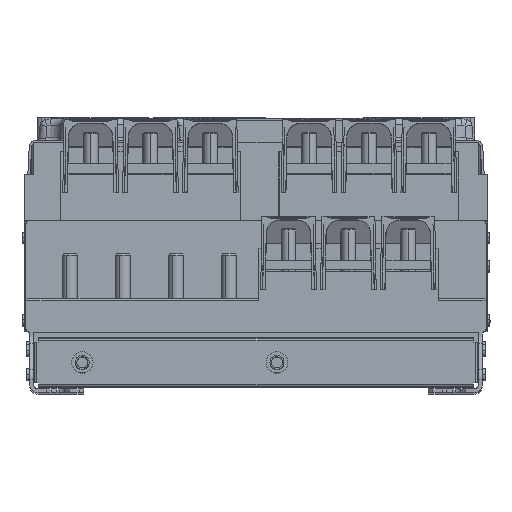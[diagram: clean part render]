
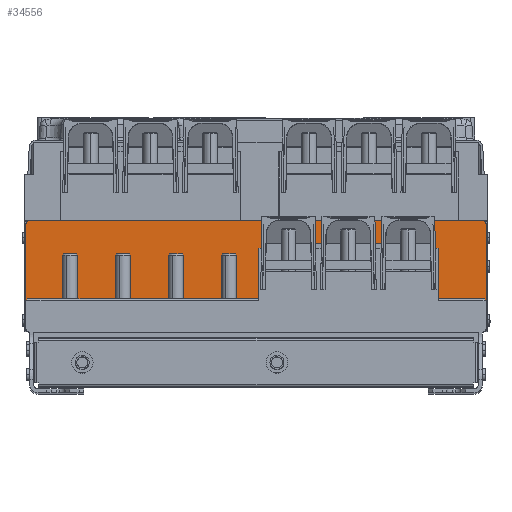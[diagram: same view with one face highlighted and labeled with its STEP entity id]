
A CAD part, top view. The second image highlights one B-rep face of the part: STEP entity #34556.
In plain terms, the highlighted planar face has unit normal (0, 0, 1).
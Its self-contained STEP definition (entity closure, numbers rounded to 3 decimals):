
#83 = LINE ( 'NONE', #30534, #63322 ) ;
#1093 = VERTEX_POINT ( 'NONE', #21017 ) ;
#1490 = CARTESIAN_POINT ( 'NONE',  ( 192.965, 63.129, 179. ) ) ;
#3931 = EDGE_CURVE ( 'NONE', #29670, #75107, #96122, .T. ) ;
#4008 = ORIENTED_EDGE ( 'NONE', *, *, #10854, .T. ) ;
#4274 = CARTESIAN_POINT ( 'NONE',  ( -243., 119., 179. ) ) ;
#4733 = CARTESIAN_POINT ( 'NONE',  ( 2.806, 89., 179. ) ) ;
#5142 = VECTOR ( 'NONE', #41113, 1000. ) ;
#6572 = CARTESIAN_POINT ( 'NONE',  ( -247., 31., 179. ) ) ;
#7763 = CARTESIAN_POINT ( 'NONE',  ( 195.511, 89., 179. ) ) ;
#8272 = EDGE_CURVE ( 'NONE', #79805, #98623, #78684, .T. ) ;
#10556 = VERTEX_POINT ( 'NONE', #4733 ) ;
#10854 = EDGE_CURVE ( 'NONE', #92250, #1093, #93618, .T. ) ;
#11756 = EDGE_CURVE ( 'NONE', #59836, #71662, #22697, .T. ) ;
#12292 = LINE ( 'NONE', #1490, #63623 ) ;
#12492 = CARTESIAN_POINT ( 'NONE',  ( 195.511, 35., 179. ) ) ;
#13195 = CIRCLE ( 'NONE', #73809, 4. ) ;
#13655 = EDGE_CURVE ( 'NONE', #43096, #35317, #12292, .T. ) ;
#13894 = DIRECTION ( 'NONE',  ( 0., 0., -1. ) ) ;
#13903 = ORIENTED_EDGE ( 'NONE', *, *, #46633, .F. ) ;
#14779 = ORIENTED_EDGE ( 'NONE', *, *, #55475, .F. ) ;
#15252 = CARTESIAN_POINT ( 'NONE',  ( 190.479, 89., 179. ) ) ;
#15504 = LINE ( 'NONE', #68443, #43623 ) ;
#15614 = AXIS2_PLACEMENT_3D ( 'NONE', #26594, #42532, #95581 ) ;
#17023 = DIRECTION ( 'NONE',  ( 0., 1., 0. ) ) ;
#17264 = CARTESIAN_POINT ( 'NONE',  ( 2.806, 35., 179. ) ) ;
#18219 = CARTESIAN_POINT ( 'NONE',  ( 195.511, 89., 179. ) ) ;
#20665 = ORIENTED_EDGE ( 'NONE', *, *, #23005, .T. ) ;
#20964 = CARTESIAN_POINT ( 'NONE',  ( 2.806, 89., 179. ) ) ;
#21017 = CARTESIAN_POINT ( 'NONE',  ( -245., 35., 179. ) ) ;
#21191 = EDGE_CURVE ( 'NONE', #1093, #33529, #39878, .T. ) ;
#22162 = ORIENTED_EDGE ( 'NONE', *, *, #65751, .T. ) ;
#22697 = LINE ( 'NONE', #38623, #33002 ) ;
#23005 = EDGE_CURVE ( 'NONE', #35317, #79805, #98217, .T. ) ;
#25136 = CARTESIAN_POINT ( 'NONE',  ( -245., 35., 179. ) ) ;
#25414 = CARTESIAN_POINT ( 'NONE',  ( -247., 35., 179. ) ) ;
#25618 = DIRECTION ( 'NONE',  ( 0.707, 0.707, 0. ) ) ;
#26095 = EDGE_CURVE ( 'NONE', #33529, #10556, #80563, .T. ) ;
#26100 = DIRECTION ( 'NONE',  ( 0., 1., 0. ) ) ;
#26260 = ORIENTED_EDGE ( 'NONE', *, *, #80654, .T. ) ;
#26594 = CARTESIAN_POINT ( 'NONE',  ( 243., 115., 179. ) ) ;
#27128 = CARTESIAN_POINT ( 'NONE',  ( 245., 35., 179. ) ) ;
#29670 = VERTEX_POINT ( 'NONE', #58834 ) ;
#30534 = CARTESIAN_POINT ( 'NONE',  ( -247., 1., 179. ) ) ;
#32982 = CARTESIAN_POINT ( 'NONE',  ( 247., 115., 179. ) ) ;
#33002 = VECTOR ( 'NONE', #46602, 1000. ) ;
#33150 = CARTESIAN_POINT ( 'NONE',  ( -247., 33., 179. ) ) ;
#33529 = VERTEX_POINT ( 'NONE', #17264 ) ;
#34556 = ADVANCED_FACE ( 'NONE', ( #66988 ), #66490, .T. ) ;
#34718 = DIRECTION ( 'NONE',  ( 1., 0., 0. ) ) ;
#35317 = VERTEX_POINT ( 'NONE', #93028 ) ;
#36028 = CARTESIAN_POINT ( 'NONE',  ( 2.806, 35., 179. ) ) ;
#36184 = ORIENTED_EDGE ( 'NONE', *, *, #90781, .F. ) ;
#36645 = VECTOR ( 'NONE', #38175, 1000. ) ;
#36990 = DIRECTION ( 'NONE',  ( 0., 0., 1. ) ) ;
#37090 = CARTESIAN_POINT ( 'NONE',  ( 247., 115., 179. ) ) ;
#37454 = LINE ( 'NONE', #90493, #52593 ) ;
#37976 = VERTEX_POINT ( 'NONE', #93025 ) ;
#38175 = DIRECTION ( 'NONE',  ( 1., 0., 0. ) ) ;
#38623 = CARTESIAN_POINT ( 'NONE',  ( 5.351, 63.129, 179. ) ) ;
#39878 = LINE ( 'NONE', #25414, #61442 ) ;
#41113 = DIRECTION ( 'NONE',  ( 0.707, -0.707, 0. ) ) ;
#41140 = DIRECTION ( 'NONE',  ( 0., -1., 0. ) ) ;
#42532 = DIRECTION ( 'NONE',  ( 0., 0., -1. ) ) ;
#43096 = VERTEX_POINT ( 'NONE', #93631 ) ;
#43623 = VECTOR ( 'NONE', #76451, 1000. ) ;
#43731 = CARTESIAN_POINT ( 'NONE',  ( 5.894, 94.2, 179. ) ) ;
#44274 = ORIENTED_EDGE ( 'NONE', *, *, #56321, .F. ) ;
#44320 = DIRECTION ( 'NONE',  ( 1., 0., 0. ) ) ;
#45326 = ORIENTED_EDGE ( 'NONE', *, *, #26095, .T. ) ;
#45932 = CARTESIAN_POINT ( 'NONE',  ( 243., 119., 179. ) ) ;
#46602 = DIRECTION ( 'NONE',  ( -0.017, -1., 0. ) ) ;
#46633 = EDGE_CURVE ( 'NONE', #65288, #75107, #71896, .T. ) ;
#47442 = CIRCLE ( 'NONE', #15614, 4. ) ;
#50447 = EDGE_CURVE ( 'NONE', #72542, #64566, #63699, .T. ) ;
#51816 = CARTESIAN_POINT ( 'NONE',  ( -243., 115., 179. ) ) ;
#52593 = VECTOR ( 'NONE', #61425, 1000. ) ;
#54642 = VECTOR ( 'NONE', #34718, 1000. ) ;
#55475 = EDGE_CURVE ( 'NONE', #92250, #37976, #83, .T. ) ;
#56321 = EDGE_CURVE ( 'NONE', #64566, #65288, #47442, .T. ) ;
#57105 = VECTOR ( 'NONE', #95437, 1000. ) ;
#58834 = CARTESIAN_POINT ( 'NONE',  ( 245., 35., 179. ) ) ;
#58979 = ORIENTED_EDGE ( 'NONE', *, *, #21191, .T. ) ;
#59836 = VERTEX_POINT ( 'NONE', #43731 ) ;
#61425 = DIRECTION ( 'NONE',  ( 1., 0., 0. ) ) ;
#61442 = VECTOR ( 'NONE', #78385, 1000. ) ;
#61794 = AXIS2_PLACEMENT_3D ( 'NONE', #6572, #36990, #97011 ) ;
#62502 = EDGE_LOOP ( 'NONE', ( #88562, #22162, #63315, #20665, #62867, #26260, #93595, #13903, #44274, #66122, #36184, #14779, #4008, #58979, #45326, #75314 ) ) ;
#62867 = ORIENTED_EDGE ( 'NONE', *, *, #8272, .T. ) ;
#63315 = ORIENTED_EDGE ( 'NONE', *, *, #13655, .T. ) ;
#63322 = VECTOR ( 'NONE', #17023, 1000. ) ;
#63623 = VECTOR ( 'NONE', #84934, 1000. ) ;
#63699 = LINE ( 'NONE', #4274, #54642 ) ;
#64566 = VERTEX_POINT ( 'NONE', #45932 ) ;
#65288 = VERTEX_POINT ( 'NONE', #37090 ) ;
#65751 = EDGE_CURVE ( 'NONE', #59836, #43096, #15504, .T. ) ;
#66122 = ORIENTED_EDGE ( 'NONE', *, *, #50447, .F. ) ;
#66490 = PLANE ( 'NONE',  #61794 ) ;
#66988 = FACE_OUTER_BOUND ( 'NONE', #62502, .T. ) ;
#68443 = CARTESIAN_POINT ( 'NONE',  ( -44.533, 94.2, 179. ) ) ;
#71662 = VERTEX_POINT ( 'NONE', #81103 ) ;
#71896 = LINE ( 'NONE', #32982, #57105 ) ;
#72542 = VERTEX_POINT ( 'NONE', #92695 ) ;
#72560 = VECTOR ( 'NONE', #41140, 1000. ) ;
#73809 = AXIS2_PLACEMENT_3D ( 'NONE', #51816, #13894, #44320 ) ;
#75107 = VERTEX_POINT ( 'NONE', #80798 ) ;
#75314 = ORIENTED_EDGE ( 'NONE', *, *, #84443, .T. ) ;
#76451 = DIRECTION ( 'NONE',  ( 1., 0., 0. ) ) ;
#78385 = DIRECTION ( 'NONE',  ( 1., 0., 0. ) ) ;
#78684 = LINE ( 'NONE', #18219, #72560 ) ;
#79805 = VERTEX_POINT ( 'NONE', #7763 ) ;
#80563 = LINE ( 'NONE', #36028, #85158 ) ;
#80654 = EDGE_CURVE ( 'NONE', #98623, #29670, #37454, .T. ) ;
#80798 = CARTESIAN_POINT ( 'NONE',  ( 247., 33., 179. ) ) ;
#81103 = CARTESIAN_POINT ( 'NONE',  ( 5.803, 89., 179. ) ) ;
#82438 = LINE ( 'NONE', #20964, #82632 ) ;
#82632 = VECTOR ( 'NONE', #97937, 1000. ) ;
#84443 = EDGE_CURVE ( 'NONE', #10556, #71662, #82438, .T. ) ;
#84934 = DIRECTION ( 'NONE',  ( 0.017, -1., 0. ) ) ;
#85158 = VECTOR ( 'NONE', #26100, 1000. ) ;
#88562 = ORIENTED_EDGE ( 'NONE', *, *, #11756, .F. ) ;
#90493 = CARTESIAN_POINT ( 'NONE',  ( -247., 35., 179. ) ) ;
#90781 = EDGE_CURVE ( 'NONE', #37976, #72542, #13195, .T. ) ;
#91966 = VECTOR ( 'NONE', #25618, 1000. ) ;
#92250 = VERTEX_POINT ( 'NONE', #33150 ) ;
#92695 = CARTESIAN_POINT ( 'NONE',  ( -243., 119., 179. ) ) ;
#93025 = CARTESIAN_POINT ( 'NONE',  ( -247., 115., 179. ) ) ;
#93028 = CARTESIAN_POINT ( 'NONE',  ( 192.514, 89., 179. ) ) ;
#93595 = ORIENTED_EDGE ( 'NONE', *, *, #3931, .T. ) ;
#93618 = LINE ( 'NONE', #25136, #91966 ) ;
#93631 = CARTESIAN_POINT ( 'NONE',  ( 192.423, 94.2, 179. ) ) ;
#95437 = DIRECTION ( 'NONE',  ( 0., -1., 0. ) ) ;
#95581 = DIRECTION ( 'NONE',  ( 1., 0., 0. ) ) ;
#96122 = LINE ( 'NONE', #27128, #5142 ) ;
#97011 = DIRECTION ( 'NONE',  ( 1., 0., 0. ) ) ;
#97937 = DIRECTION ( 'NONE',  ( 1., 0., 0. ) ) ;
#98217 = LINE ( 'NONE', #15252, #36645 ) ;
#98623 = VERTEX_POINT ( 'NONE', #12492 ) ;
